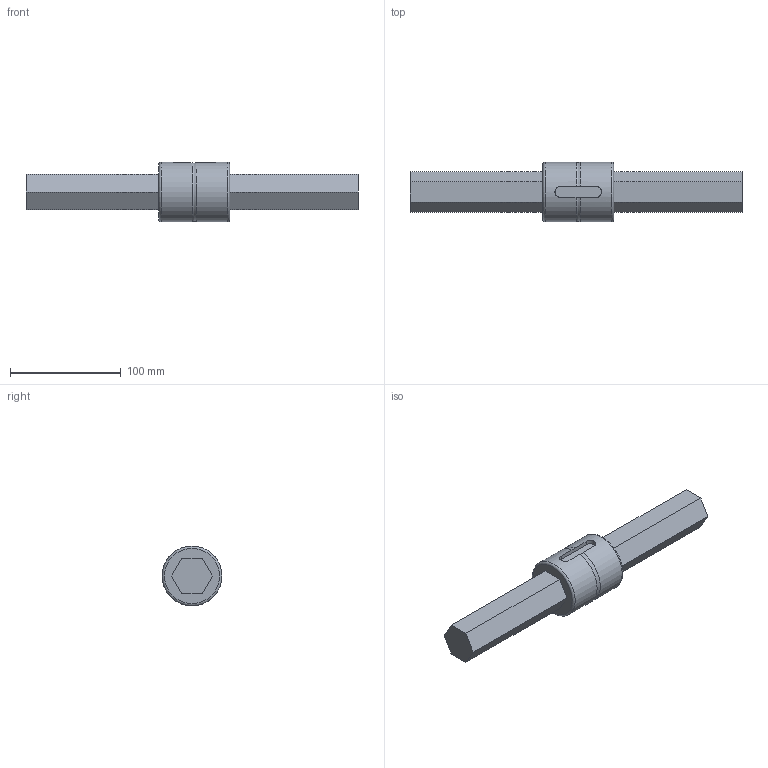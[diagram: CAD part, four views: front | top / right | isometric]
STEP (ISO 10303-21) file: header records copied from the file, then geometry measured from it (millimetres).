
FILE_DESCRIPTION((''),'2;1');
FILE_NAME('D:\製品 (図面)\カタログ用3D\ネジ関連\STEP形式\HTS\HTS32.stp','2010-06-01T16:51:25',('Tsuchiya'),(''),'Autodesk Inventor 10','Autodesk Inventor 10','');
FILE_SCHEMA(('AUTOMOTIVE_DESIGN { 1 0 10303 214 1 1 1 1 }'));
Length unit declared in the file: millimetre
Products named in the file (3): HTS32; HTS321; HTS322
Assembly tree (2 placements, depth 2):
  HTS32
    HTS321
    HTS322
Bounding box: 300 x 54 x 54 mm (x, y, z)
Volume: 352796.1 mm3; surface area: 56428.1 mm2
Topology: 2 solids, 2 shells, 36 faces, 89 edges, 59 vertices
Faces by surface type: plane 27, cylinder 6, torus 2, bspline 1
Full cylindrical faces by diameter (mm): 2.5 x1, 38 x1, 54 x2
Entity records: 1366 total; most frequent: CARTESIAN_POINT 467, DIRECTION 164, ORIENTED_EDGE 164, EDGE_CURVE 82, VECTOR 64, LINE 64, VERTEX_POINT 58, AXIS2_PLACEMENT_3D 50
